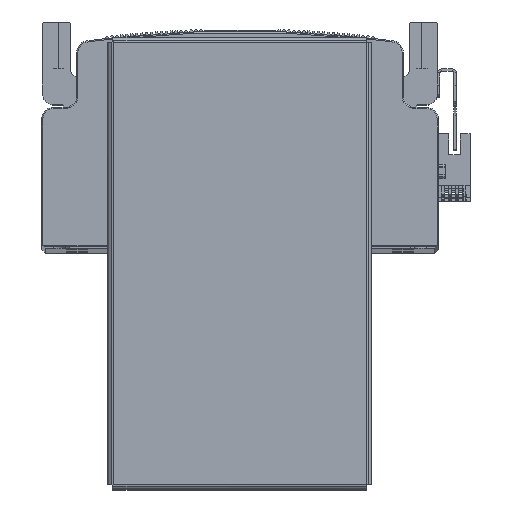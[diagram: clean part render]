
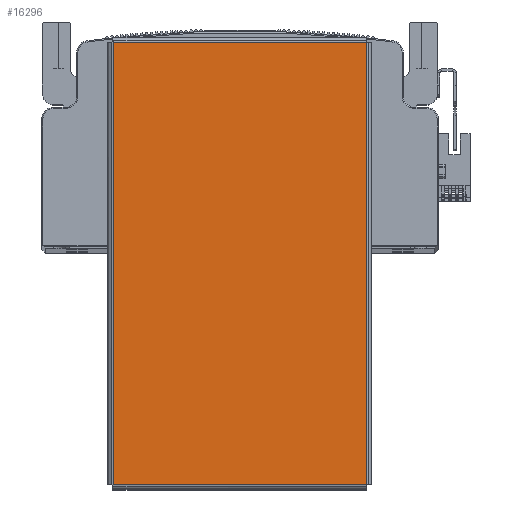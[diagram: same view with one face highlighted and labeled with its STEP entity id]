
A CAD part, top view. The second image highlights one B-rep face of the part: STEP entity #16296.
In plain terms, the highlighted planar face has unit normal (0, 0, 1) as drawn and (0, -1, 0) by its records, which use the part's own axes.
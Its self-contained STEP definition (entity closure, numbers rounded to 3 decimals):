
#6534 = ORIENTED_EDGE ( 'NONE', *, *, #48640, .T. ) ;
#6535 = ORIENTED_EDGE ( 'NONE', *, *, #48647, .T. ) ;
#6536 = ORIENTED_EDGE ( 'NONE', *, *, #48637, .T. ) ;
#16296 = ADVANCED_FACE ( 'NONE', ( #57168 ), #60192, .F. ) ;
#20299 = ORIENTED_EDGE ( 'NONE', *, *, #48638, .T. ) ;
#25552 = VERTEX_POINT ( 'NONE', #68131 ) ;
#25563 = VERTEX_POINT ( 'NONE', #68176 ) ;
#25595 = VERTEX_POINT ( 'NONE', #68190 ) ;
#25632 = VERTEX_POINT ( 'NONE', #68221 ) ;
#35594 = LINE ( 'NONE', #42482, #35633 ) ;
#35597 = VECTOR ( 'NONE', #42408, 1000. ) ;
#35601 = VECTOR ( 'NONE', #42481, 1000. ) ;
#35612 = LINE ( 'NONE', #42466, #35614 ) ;
#35614 = VECTOR ( 'NONE', #42484, 1000. ) ;
#35623 = LINE ( 'NONE', #42492, #35601 ) ;
#35633 = VECTOR ( 'NONE', #42461, 1000. ) ;
#35635 = LINE ( 'NONE', #42406, #35597 ) ;
#41334 = AXIS2_PLACEMENT_3D ( 'NONE', #60221, #60236, #60217 ) ;
#42406 = CARTESIAN_POINT ( 'NONE',  ( -94.793, -1.5, -54.363 ) ) ;
#42408 = DIRECTION ( 'NONE',  ( 1., 0., 0. ) ) ;
#42461 = DIRECTION ( 'NONE',  ( -1., 0., 0. ) ) ;
#42466 = CARTESIAN_POINT ( 'NONE',  ( -94.763, -1.5, 54.393 ) ) ;
#42481 = DIRECTION ( 'NONE',  ( 0., 0., 1. ) ) ;
#42482 = CARTESIAN_POINT ( 'NONE',  ( 94.793, -1.5, 54.363 ) ) ;
#42484 = DIRECTION ( 'NONE',  ( 0., 0., -1. ) ) ;
#42492 = CARTESIAN_POINT ( 'NONE',  ( 94.763, -1.5, -54.393 ) ) ;
#48637 = EDGE_CURVE ( 'NONE', #25563, #25632, #35635, .T. ) ;
#48638 = EDGE_CURVE ( 'NONE', #25632, #25552, #35623, .T. ) ;
#48640 = EDGE_CURVE ( 'NONE', #25552, #25595, #35594, .T. ) ;
#48647 = EDGE_CURVE ( 'NONE', #25595, #25563, #35612, .T. ) ;
#55670 = EDGE_LOOP ( 'NONE', ( #6534, #6535, #6536, #20299 ) ) ;
#57168 = FACE_OUTER_BOUND ( 'NONE', #55670, .T. ) ;
#60192 = PLANE ( 'NONE',  #41334 ) ;
#60217 = DIRECTION ( 'NONE',  ( 0., 0., 1. ) ) ;
#60221 = CARTESIAN_POINT ( 'NONE',  ( 0., -1.5, 0. ) ) ;
#60236 = DIRECTION ( 'NONE',  ( 0., 1., 0. ) ) ;
#68131 = CARTESIAN_POINT ( 'NONE',  ( 94.763, -1.5, 54.363 ) ) ;
#68176 = CARTESIAN_POINT ( 'NONE',  ( -94.763, -1.5, -54.363 ) ) ;
#68190 = CARTESIAN_POINT ( 'NONE',  ( -94.763, -1.5, 54.363 ) ) ;
#68221 = CARTESIAN_POINT ( 'NONE',  ( 94.763, -1.5, -54.363 ) ) ;
